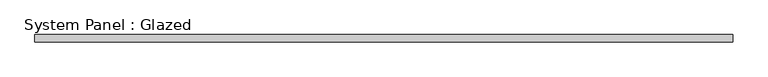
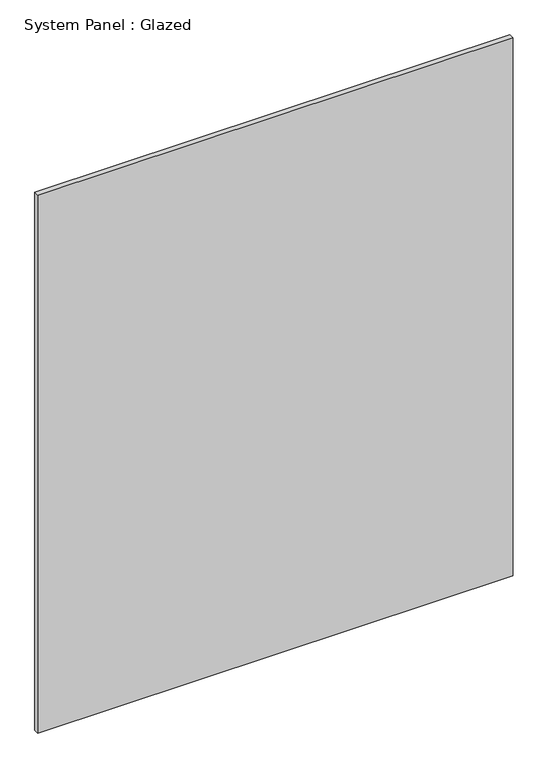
"""IFC4 building model written with IfcOpenShell, lengths in millimetres: plate geometry, System Panel : Glazed."""

from ifc_helpers import new_model, si_unit, origin, origin_with_axes, place, context, project, spatial, polyline, outline, extrude, source, transform, mapped, element, save


def system_panel_glazed_935986ee(model_context):
    return source(origin(), model_context, "Body", "SweptSolid", [
        extrude(outline(polyline([(1247.775, 19.05), (-1247.775, 19.05), (-1247.775, 44.45), (1247.775, 44.45), (1247.775, 19.05)])), origin_with_axes(), (0.0, 0.0, 1.0), 2984.5),
    ])


if __name__ == "__main__":
    model = new_model("IFC4")
    model_context = context("Model", 3, world=origin())
    ifc_project = project(units=[si_unit("LENGTHUNIT", "METRE", prefix="MILLI")], contexts=[model_context])
    site = spatial("IfcSite", under=ifc_project)
    building = spatial("IfcBuilding", under=site)
    placement = place(None, origin())
    system_panel_glazed_shape = system_panel_glazed_935986ee(model_context)
    element("IfcPlate", 1, ObjectType="System Panel : Glazed", at=placement, inside=building, context=model_context, shape_type="MappedRepresentation", body=[
        mapped(system_panel_glazed_shape, transform((0.0, 0.0, 0.0), x_axis=(1.0, 0.0, 0.0), y_axis=(0.0, 1.0, 0.0), z_axis=(0.0, 0.0, 1.0))),
    ])
    save(model, "model.ifc")
